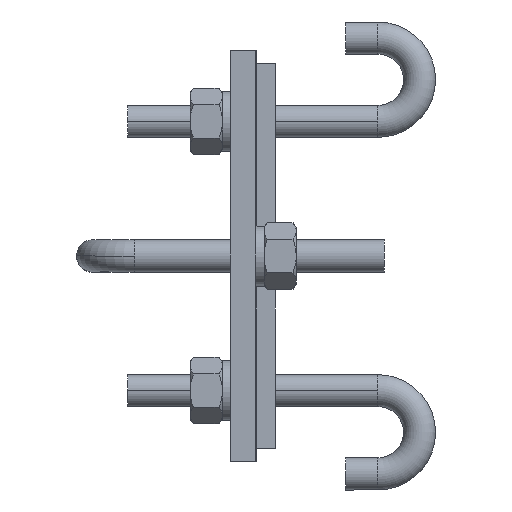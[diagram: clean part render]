
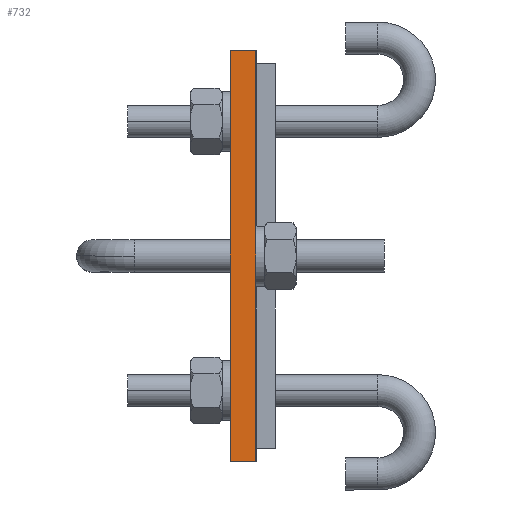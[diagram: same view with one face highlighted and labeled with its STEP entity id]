
A CAD part, left-side view. The second image highlights one B-rep face of the part: STEP entity #732.
In plain terms, the highlighted planar face has unit normal (-1, 0, 0).
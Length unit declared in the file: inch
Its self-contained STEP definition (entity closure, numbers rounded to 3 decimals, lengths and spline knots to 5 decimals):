
#207 = ORIENTED_EDGE ( 'NONE', *, *, #2933, .T. ) ;
#208 = ORIENTED_EDGE ( 'NONE', *, *, #2934, .F. ) ;
#209 = ORIENTED_EDGE ( 'NONE', *, *, #3012, .F. ) ;
#210 = ORIENTED_EDGE ( 'NONE', *, *, #2935, .T. ) ;
#296 = EDGE_LOOP ( 'NONE', ( #207, #208, #209, #210 ) ) ;
#425 = FACE_OUTER_BOUND ( 'NONE', #296, .T. ) ;
#586 = LINE ( 'NONE', #1753, #596 ) ;
#594 = LINE ( 'NONE', #1756, #595 ) ;
#595 = VECTOR ( 'NONE', #1757, 39.37008 ) ;
#596 = VECTOR ( 'NONE', #1759, 39.37008 ) ;
#598 = LINE ( 'NONE', #1760, #599 ) ;
#599 = VECTOR ( 'NONE', #1761, 39.37008 ) ;
#732 = ADVANCED_FACE ( 'NONE', ( #425 ), #2431, .F. ) ;
#900 = LINE ( 'NONE', #1978, #902 ) ;
#902 = VECTOR ( 'NONE', #1986, 39.37008 ) ;
#1753 = CARTESIAN_POINT ( 'NONE',  ( 0., 0.25, 0. ) ) ;
#1756 = CARTESIAN_POINT ( 'NONE',  ( 0., 0., 0. ) ) ;
#1757 = DIRECTION ( 'NONE',  ( 0., 0., 1. ) ) ;
#1759 = DIRECTION ( 'NONE',  ( 0., -1., 0. ) ) ;
#1760 = CARTESIAN_POINT ( 'NONE',  ( 0., 0.25, -4. ) ) ;
#1761 = DIRECTION ( 'NONE',  ( 0., -1., 0. ) ) ;
#1978 = CARTESIAN_POINT ( 'NONE',  ( 0., 0.25, 0. ) ) ;
#1986 = DIRECTION ( 'NONE',  ( 0., 0., 1. ) ) ;
#2063 = CARTESIAN_POINT ( 'NONE',  ( 0., 0.25, 0. ) ) ;
#2065 = CARTESIAN_POINT ( 'NONE',  ( 0., 0., 0. ) ) ;
#2076 = CARTESIAN_POINT ( 'NONE',  ( 0., 0.25, -4. ) ) ;
#2080 = CARTESIAN_POINT ( 'NONE',  ( 0., 0., -4. ) ) ;
#2429 = DIRECTION ( 'NONE',  ( 1., 0., 0. ) ) ;
#2431 = PLANE ( 'NONE',  #2638 ) ;
#2462 = CARTESIAN_POINT ( 'NONE',  ( 0., 0.25, 0. ) ) ;
#2481 = DIRECTION ( 'NONE',  ( 0., 0., -1. ) ) ;
#2638 = AXIS2_PLACEMENT_3D ( 'NONE', #2462, #2429, #2481 ) ;
#2933 = EDGE_CURVE ( 'NONE', #3083, #3068, #594, .T. ) ;
#2934 = EDGE_CURVE ( 'NONE', #3066, #3068, #586, .T. ) ;
#2935 = EDGE_CURVE ( 'NONE', #3079, #3083, #598, .T. ) ;
#3012 = EDGE_CURVE ( 'NONE', #3079, #3066, #900, .T. ) ;
#3066 = VERTEX_POINT ( 'NONE', #2063 ) ;
#3068 = VERTEX_POINT ( 'NONE', #2065 ) ;
#3079 = VERTEX_POINT ( 'NONE', #2076 ) ;
#3083 = VERTEX_POINT ( 'NONE', #2080 ) ;
